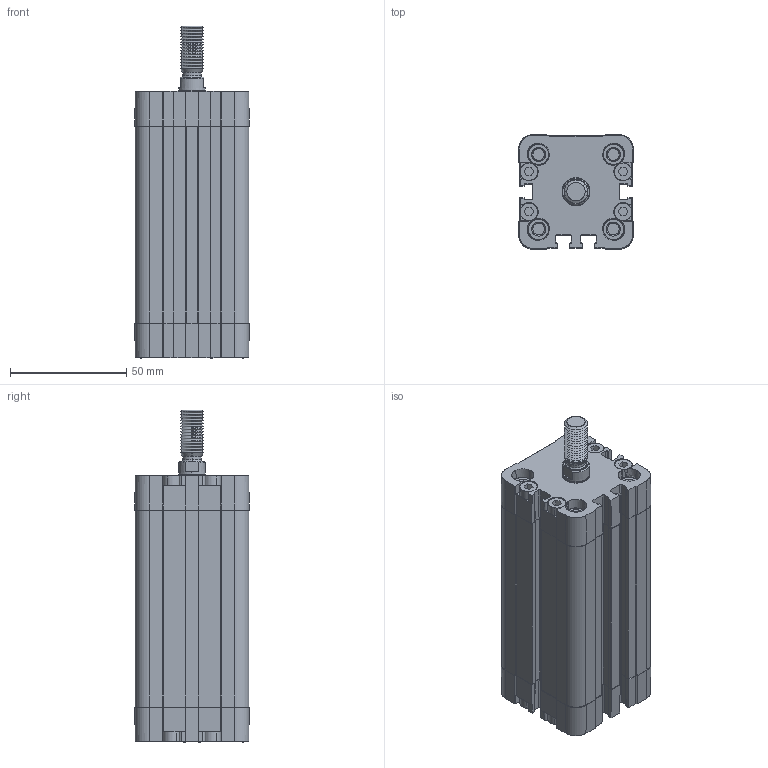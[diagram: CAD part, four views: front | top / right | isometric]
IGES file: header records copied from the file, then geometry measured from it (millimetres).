
Start section: SolidWorks IGES file using analytic representation for surfaces
Global section: file name: W:\_ALTRO\CATALOGO 3D\CYLINDERS\NSK\032\IGES\NSKU 032\NSKU 032 M\NSKU032.0070 M.IGS; native system: SolidWorks 2009; preprocessor: SolidWorks 2009; author: utente03; date: 110613.150258; units: millimetre
Bounding box: 49.2 x 49.2 x 142.5 mm (x, y, z)
Surface area: 69065.6 mm2 (no closed solid volume)
Topology: 0 solids, 0 shells, 1117 faces, 10738 edges, 10722 vertices
Faces by surface type: revolution 586, bspline 531
